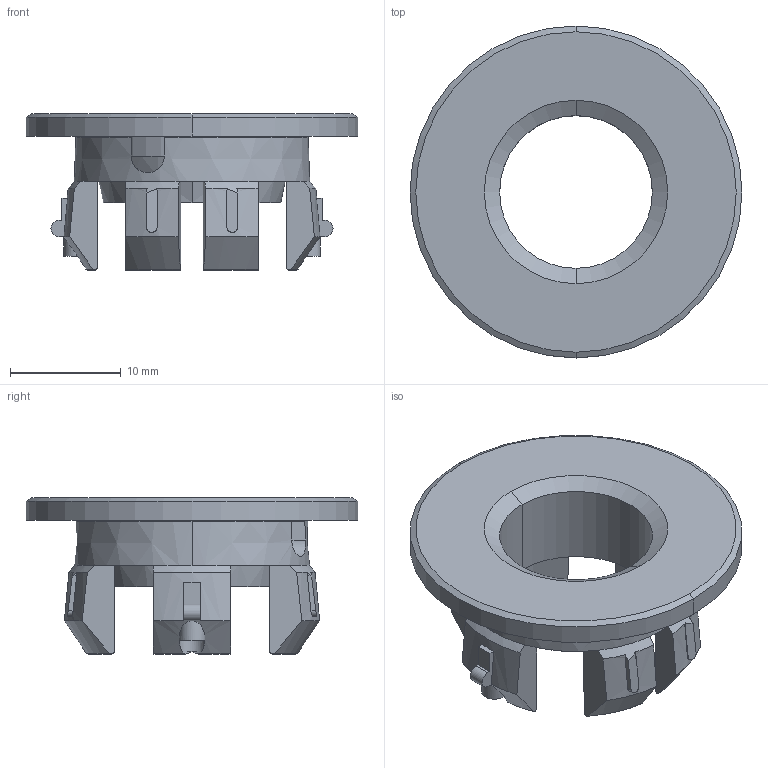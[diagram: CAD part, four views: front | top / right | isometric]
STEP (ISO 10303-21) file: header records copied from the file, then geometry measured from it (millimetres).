
FILE_DESCRIPTION((''),'2;1');
FILE_NAME('46180--_ASM','2026-09-10T10:22:40',('simi1'),(''),'CREO PARAMETRIC BY PTC INC, 2022244','CREO PARAMETRIC BY PTC INC, 2022244','');
FILE_SCHEMA(('CONFIG_CONTROL_DESIGN'));
Length unit declared in the file: millimetre
Products named in the file (3): 46181--; 4618200; 46180--_ASM
Assembly tree (2 placements, depth 2):
  46180--_ASM
    46181--
    4618200
Bounding box: 30 x 30 x 14.1 mm (x, y, z)
Volume: 2404.6 mm3; surface area: 3411.3 mm2
Topology: 2 solids, 2 shells, 136 faces, 360 edges, 228 vertices
Faces by surface type: plane 60, cone 36, cylinder 28, torus 8, bspline 4
Entity records: 4850 total; most frequent: CARTESIAN_POINT 1599, ORIENTED_EDGE 720, DIRECTION 606, EDGE_CURVE 360, AXIS2_PLACEMENT_3D 251, VERTEX_POINT 230, B_SPLINE_CURVE_WITH_KNOTS 140, EDGE_LOOP 138
